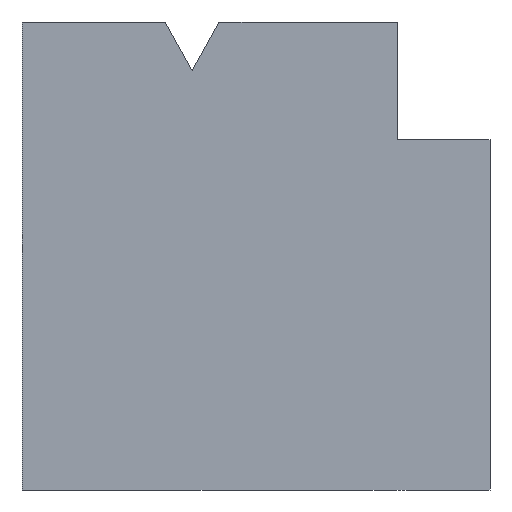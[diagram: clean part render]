
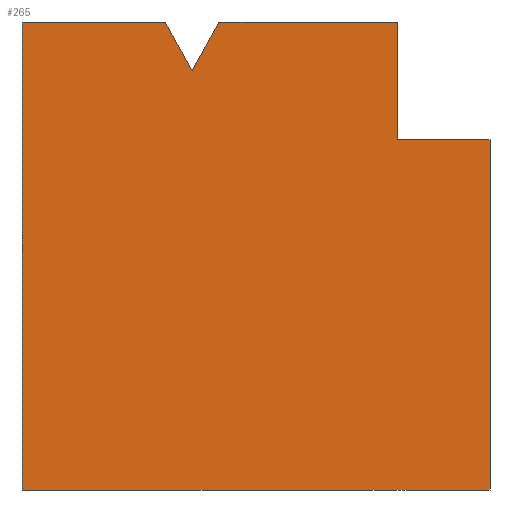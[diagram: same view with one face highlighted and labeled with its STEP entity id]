
A CAD part, left-side view. The second image highlights one B-rep face of the part: STEP entity #265.
In plain terms, the highlighted planar face has unit normal (-1, 0, 0).
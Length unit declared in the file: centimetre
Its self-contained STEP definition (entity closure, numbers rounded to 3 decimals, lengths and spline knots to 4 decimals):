
#12 = CARTESIAN_POINT ( 'NONE',  ( 0., 1000., 1000. ) ) ;
#31 = CARTESIAN_POINT ( 'NONE',  ( 0., 1000., 1000. ) ) ;
#67 = DIRECTION ( 'NONE',  ( 0., 0., -1. ) ) ;
#71 = EDGE_CURVE ( 'NONE', #363, #536, #752, .T. ) ;
#76 = ORIENTED_EDGE ( 'NONE', *, *, #415, .F. ) ;
#79 = ORIENTED_EDGE ( 'NONE', *, *, #613, .T. ) ;
#86 = CARTESIAN_POINT ( 'NONE',  ( 0., 0., 1000. ) ) ;
#106 = CARTESIAN_POINT ( 'NONE',  ( 0., 196.8627, 1000. ) ) ;
#121 = CARTESIAN_POINT ( 'NONE',  ( 0., 196.8627, 748.6046 ) ) ;
#125 = DIRECTION ( 'NONE',  ( 1., 0., 0. ) ) ;
#127 = CARTESIAN_POINT ( 'NONE',  ( 0., 1000., 0. ) ) ;
#139 = ORIENTED_EDGE ( 'NONE', *, *, #765, .F. ) ;
#149 = DIRECTION ( 'NONE',  ( 0., 0., -1. ) ) ;
#151 = VERTEX_POINT ( 'NONE', #153 ) ;
#153 = CARTESIAN_POINT ( 'NONE',  ( 0., 0., 0. ) ) ;
#155 = VECTOR ( 'NONE', #843, 100. ) ;
#160 = AXIS2_PLACEMENT_3D ( 'NONE', #713, #125, #390 ) ;
#163 = VERTEX_POINT ( 'NONE', #12 ) ;
#166 = EDGE_CURVE ( 'NONE', #272, #151, #537, .T. ) ;
#167 = LINE ( 'NONE', #805, #385 ) ;
#176 = ORIENTED_EDGE ( 'NONE', *, *, #600, .T. ) ;
#190 = VECTOR ( 'NONE', #67, 100. ) ;
#207 = VERTEX_POINT ( 'NONE', #484 ) ;
#265 = ADVANCED_FACE ( 'NONE', ( #505 ), #497, .F. ) ;
#272 = VERTEX_POINT ( 'NONE', #774 ) ;
#308 = DIRECTION ( 'NONE',  ( 0., -1., 0. ) ) ;
#309 = CARTESIAN_POINT ( 'NONE',  ( 0., 693.8913, 1000. ) ) ;
#318 = VERTEX_POINT ( 'NONE', #625 ) ;
#322 = CARTESIAN_POINT ( 'NONE',  ( 0., 636.6081, 895.7679 ) ) ;
#325 = DIRECTION ( 'NONE',  ( 0., -1., 0. ) ) ;
#337 = VECTOR ( 'NONE', #325, 100. ) ;
#363 = VERTEX_POINT ( 'NONE', #564 ) ;
#378 = VERTEX_POINT ( 'NONE', #570 ) ;
#385 = VECTOR ( 'NONE', #618, 100. ) ;
#390 = DIRECTION ( 'NONE',  ( 0., 0., -1. ) ) ;
#397 = VERTEX_POINT ( 'NONE', #106 ) ;
#404 = EDGE_CURVE ( 'NONE', #207, #272, #751, .T. ) ;
#415 = EDGE_CURVE ( 'NONE', #318, #397, #167, .T. ) ;
#447 = DIRECTION ( 'NONE',  ( 0., 0.482, 0.876 ) ) ;
#462 = VECTOR ( 'NONE', #308, 100. ) ;
#466 = CARTESIAN_POINT ( 'NONE',  ( 0., 579.325, 1000. ) ) ;
#481 = VECTOR ( 'NONE', #447, 100. ) ;
#484 = CARTESIAN_POINT ( 'NONE',  ( 0., 196.8627, 748.6046 ) ) ;
#497 = PLANE ( 'NONE',  #160 ) ;
#505 = FACE_OUTER_BOUND ( 'NONE', #517, .T. ) ;
#507 = DIRECTION ( 'NONE',  ( 0., 0., 1. ) ) ;
#517 = EDGE_LOOP ( 'NONE', ( #544, #781, #139, #79, #176, #825, #717, #811, #76 ) ) ;
#532 = CARTESIAN_POINT ( 'NONE',  ( 0., 1000., 1000. ) ) ;
#534 = VECTOR ( 'NONE', #149, 100. ) ;
#536 = VERTEX_POINT ( 'NONE', #309 ) ;
#537 = LINE ( 'NONE', #86, #534 ) ;
#544 = ORIENTED_EDGE ( 'NONE', *, *, #720, .T. ) ;
#555 = LINE ( 'NONE', #31, #796 ) ;
#559 = EDGE_CURVE ( 'NONE', #207, #397, #589, .T. ) ;
#564 = CARTESIAN_POINT ( 'NONE',  ( 0., 636.6081, 895.7679 ) ) ;
#570 = CARTESIAN_POINT ( 'NONE',  ( 0., 1000., 0. ) ) ;
#587 = LINE ( 'NONE', #466, #155 ) ;
#589 = LINE ( 'NONE', #121, #668 ) ;
#600 = EDGE_CURVE ( 'NONE', #378, #151, #701, .T. ) ;
#613 = EDGE_CURVE ( 'NONE', #163, #378, #853, .T. ) ;
#618 = DIRECTION ( 'NONE',  ( 0., -1., 0. ) ) ;
#625 = CARTESIAN_POINT ( 'NONE',  ( 0., 579.325, 1000. ) ) ;
#641 = DIRECTION ( 'NONE',  ( 0., -1., 0. ) ) ;
#668 = VECTOR ( 'NONE', #507, 100. ) ;
#701 = LINE ( 'NONE', #127, #337 ) ;
#713 = CARTESIAN_POINT ( 'NONE',  ( 0., 1000., 1000. ) ) ;
#717 = ORIENTED_EDGE ( 'NONE', *, *, #404, .F. ) ;
#720 = EDGE_CURVE ( 'NONE', #318, #363, #587, .T. ) ;
#751 = LINE ( 'NONE', #762, #462 ) ;
#752 = LINE ( 'NONE', #322, #481 ) ;
#762 = CARTESIAN_POINT ( 'NONE',  ( 0., 196.8627, 748.6046 ) ) ;
#765 = EDGE_CURVE ( 'NONE', #163, #536, #555, .T. ) ;
#774 = CARTESIAN_POINT ( 'NONE',  ( 0., 0., 748.6046 ) ) ;
#781 = ORIENTED_EDGE ( 'NONE', *, *, #71, .T. ) ;
#796 = VECTOR ( 'NONE', #641, 100. ) ;
#805 = CARTESIAN_POINT ( 'NONE',  ( 0., 1000., 1000. ) ) ;
#811 = ORIENTED_EDGE ( 'NONE', *, *, #559, .T. ) ;
#825 = ORIENTED_EDGE ( 'NONE', *, *, #166, .F. ) ;
#843 = DIRECTION ( 'NONE',  ( 0., 0.482, -0.876 ) ) ;
#853 = LINE ( 'NONE', #532, #190 ) ;
